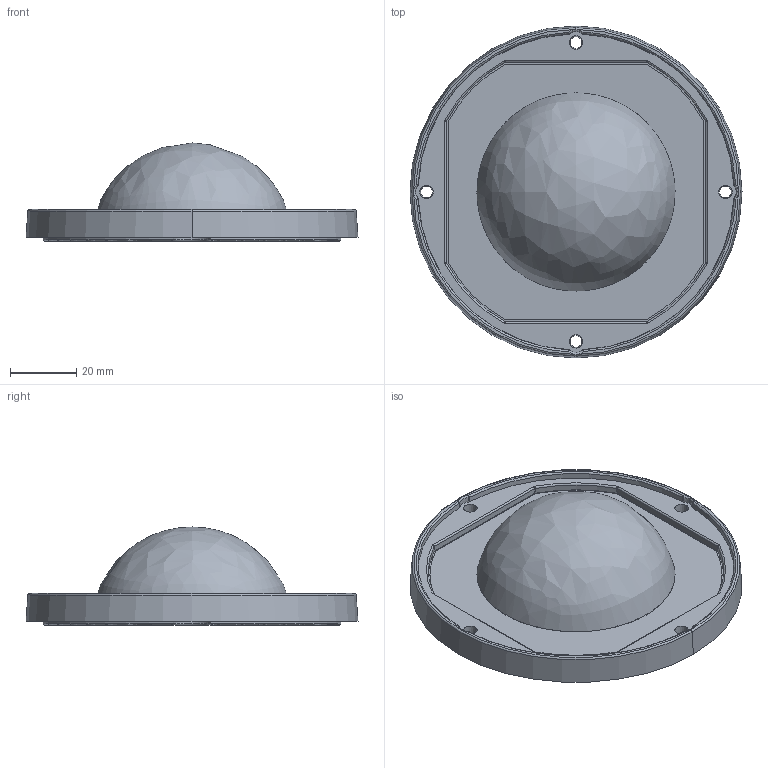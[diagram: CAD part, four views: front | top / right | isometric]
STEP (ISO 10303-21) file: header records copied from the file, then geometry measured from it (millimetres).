
FILE_DESCRIPTION (( 'STEP AP214' ), '1' );
FILE_NAME ('LUGA-C_SYM II-Lens_with_Holder-Rev2_RED.STEP', '2018-08-08T12:38:02', ( 'Admin' ), ( 'Microsoft' ), 'SwSTEP 2.0', 'SolidWorks 2017', '' );
FILE_SCHEMA (( 'AUTOMOTIVE_DESIGN' ));
Length unit declared in the file: millimetre
Products named in the file (3): Haltering_98801_t858-2018-Final; LUGA_C_SYM_II-Rev-A1_160429_simple; LUGA-C_SYM II-Lens_with_Holder-Rev2_RED
Assembly tree (2 placements, depth 2):
  LUGA-C_SYM II-Lens_with_Holder-Rev2_RED
    LUGA_C_SYM_II-Rev-A1_160429_simple
    Haltering_98801_t858-2018-Final
Bounding box: 100 x 100 x 29.54 mm (x, y, z)
Volume: 65300.2 mm3; surface area: 34406.3 mm2
Topology: 3 solids, 3 shells, 859 faces, 2140 edges, 1292 vertices
Faces by surface type: bspline 282, cylinder 279, plane 173, torus 89, cone 36
Entity records: 53940 total; most frequent: CARTESIAN_POINT 34377, ORIENTED_EDGE 4252, DIRECTION 3042, EDGE_CURVE 2126, VERTEX_POINT 1292, AXIS2_PLACEMENT_3D 1156, EDGE_LOOP 888, ADVANCED_FACE 859
